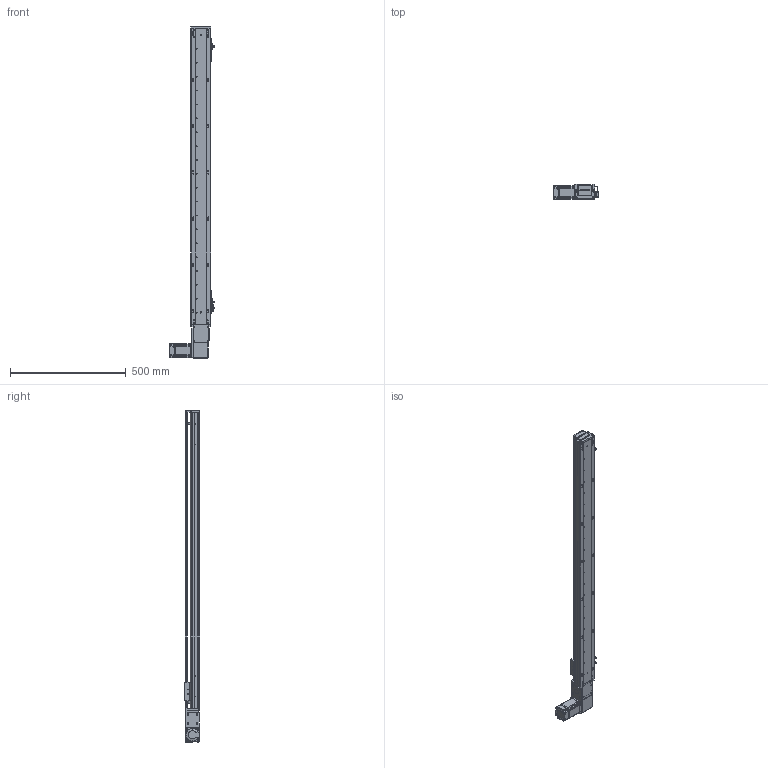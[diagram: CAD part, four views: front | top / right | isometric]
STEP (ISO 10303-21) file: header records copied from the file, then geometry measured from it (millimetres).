
FILE_DESCRIPTION (( 'STEP AP203' ), '1' );
FILE_NAME ('RY80-T-300-LK.SLDASM_1100.step', '2021-03-01T01:59:05', ( '盈信电脑' ), ( '东莞市道滘镇水果街19号' ), 'SwSTEP 2.0', 'SolidWorks 2012', '' );
FILE_SCHEMA (( 'CONFIG_CONTROL_DESIGN' ));
Length unit declared in the file: millimetre
Products named in the file (19): RY80-T-300-LK.SLDASM_1100; RY80-T-M4蹟翐; RY80-T肮祭謫俋欶; 侂狟200W萇儂; RY80-T萇儂假蚾啣; RY80-T粣創揤踡輸; 1; RY80-T翋肮祭謫裔啣; 滅袉蝶18-10; RY80-T肮祭湍揤輸1; RY80俋离覜茼え; RY80-T-翋肮祭謫釱; RY80-T肮祭湍揤輸2; 672嫖萇羲壽假蚾釱; RY80-T綴裔啣; 覜茼ん672; RY80-T-300-LK倰第奻裔啣_1100; RY80-T肮祭謫臏賑輸; RY80-T-300-LK倰第菁釱_1100
Assembly tree (24 placements, depth 3):
  RY80-T-300-LK.SLDASM_1100
    RY80-T-300-LK倰第菁釱_1100
    RY80-T肮祭謫臏賑輸
    RY80-T-300-LK倰第奻裔啣_1100
    RY80-T綴裔啣
    672嫖萇羲壽假蚾釱  x2
    覜茼ん672  x3
    RY80俋离覜茼え
    RY80-T-翋肮祭謫釱
    RY80-T肮祭湍揤輸1
    RY80-T肮祭湍揤輸2
    RY80-T粣創揤踡輸
    RY80-T翋肮祭謫裔啣  x2
    滅袉蝶18-10  x2
    侂狟200W萇儂
      1
    RY80-T肮祭謫俋欶
    RY80-T萇儂假蚾啣
    RY80-T-M4蹟翐  x2
Bounding box: 198.7 x 65 x 1435 mm (x, y, z)
Volume: 2309723.4 mm3; surface area: 965730.1 mm2
Topology: 23 solids, 23 shells, 2463 faces, 6797 edges, 4417 vertices
Faces by surface type: plane 1319, cylinder 940, cone 148, bspline 56
Entity records: 77345 total; most frequent: CARTESIAN_POINT 18693, ORIENTED_EDGE 12038, DIRECTION 11324, EDGE_CURVE 6019, VERTEX_POINT 3958, AXIS2_PLACEMENT_3D 3809, VECTOR 3706, LINE 3706
